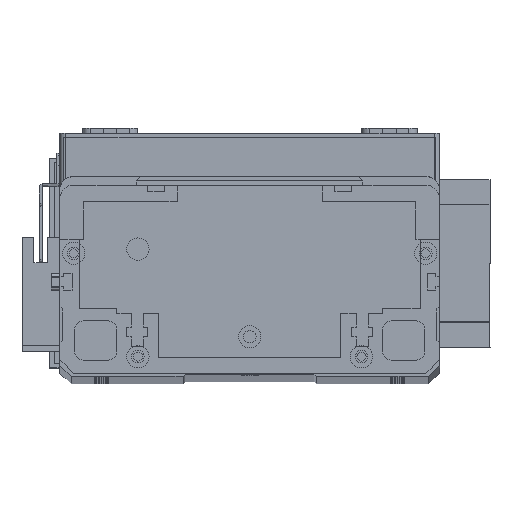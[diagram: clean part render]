
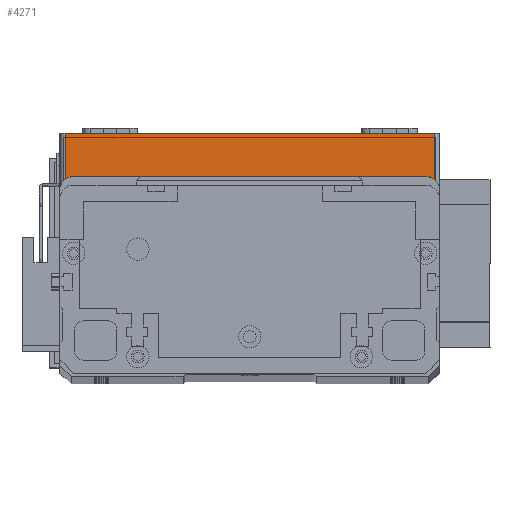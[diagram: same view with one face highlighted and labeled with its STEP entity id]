
A CAD part, top view. The second image highlights one B-rep face of the part: STEP entity #4271.
In plain terms, the highlighted planar face has unit normal (0, 0, 1) as drawn and (0, -1, 0) by its records, which use the part's own axes.
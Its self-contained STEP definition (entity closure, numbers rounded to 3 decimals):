
#2408 = VECTOR ( 'NONE', #18115, 1000. ) ;
#2865 = LINE ( 'NONE', #21915, #14995 ) ;
#3727 = CARTESIAN_POINT ( 'NONE',  ( 2., 0., 19.5 ) ) ;
#3739 = PLANE ( 'NONE',  #21640 ) ;
#4271 = ADVANCED_FACE ( 'NONE', ( #23895 ), #3739, .F. ) ;
#4656 = CARTESIAN_POINT ( 'NONE',  ( 2., 0., 19.5 ) ) ;
#6732 = EDGE_LOOP ( 'NONE', ( #21499, #12170, #9121, #8123 ) ) ;
#7081 = CARTESIAN_POINT ( 'NONE',  ( 2., 0., 0. ) ) ;
#7166 = VERTEX_POINT ( 'NONE', #8019 ) ;
#8019 = CARTESIAN_POINT ( 'NONE',  ( 134., 0., 19.5 ) ) ;
#8123 = ORIENTED_EDGE ( 'NONE', *, *, #18650, .T. ) ;
#9121 = ORIENTED_EDGE ( 'NONE', *, *, #17469, .T. ) ;
#10499 = VECTOR ( 'NONE', #15177, 1000. ) ;
#10569 = DIRECTION ( 'NONE',  ( 1., 0., 0. ) ) ;
#10646 = DIRECTION ( 'NONE',  ( 0., 0., 1. ) ) ;
#12170 = ORIENTED_EDGE ( 'NONE', *, *, #16312, .T. ) ;
#12464 = VECTOR ( 'NONE', #23907, 1000. ) ;
#13801 = VERTEX_POINT ( 'NONE', #4656 ) ;
#14995 = VECTOR ( 'NONE', #10569, 1000. ) ;
#15177 = DIRECTION ( 'NONE',  ( 0., 0., -1. ) ) ;
#15737 = CARTESIAN_POINT ( 'NONE',  ( 134., 0., 19.5 ) ) ;
#16312 = EDGE_CURVE ( 'NONE', #13801, #28614, #16529, .T. ) ;
#16529 = LINE ( 'NONE', #3727, #10499 ) ;
#17089 = CARTESIAN_POINT ( 'NONE',  ( 0., 0., 19.5 ) ) ;
#17375 = CARTESIAN_POINT ( 'NONE',  ( 0., 0., 19.5 ) ) ;
#17469 = EDGE_CURVE ( 'NONE', #28614, #23210, #2865, .T. ) ;
#17669 = CARTESIAN_POINT ( 'NONE',  ( 134., 0., 0. ) ) ;
#18115 = DIRECTION ( 'NONE',  ( 0., 0., 1. ) ) ;
#18650 = EDGE_CURVE ( 'NONE', #23210, #7166, #20605, .T. ) ;
#19534 = EDGE_CURVE ( 'NONE', #13801, #7166, #23858, .T. ) ;
#20605 = LINE ( 'NONE', #15737, #2408 ) ;
#21499 = ORIENTED_EDGE ( 'NONE', *, *, #19534, .F. ) ;
#21640 = AXIS2_PLACEMENT_3D ( 'NONE', #17375, #24304, #10646 ) ;
#21915 = CARTESIAN_POINT ( 'NONE',  ( 0., 0., 0. ) ) ;
#23210 = VERTEX_POINT ( 'NONE', #17669 ) ;
#23858 = LINE ( 'NONE', #17089, #12464 ) ;
#23895 = FACE_OUTER_BOUND ( 'NONE', #6732, .T. ) ;
#23907 = DIRECTION ( 'NONE',  ( 1., 0., 0. ) ) ;
#24304 = DIRECTION ( 'NONE',  ( 0., 1., 0. ) ) ;
#28614 = VERTEX_POINT ( 'NONE', #7081 ) ;
